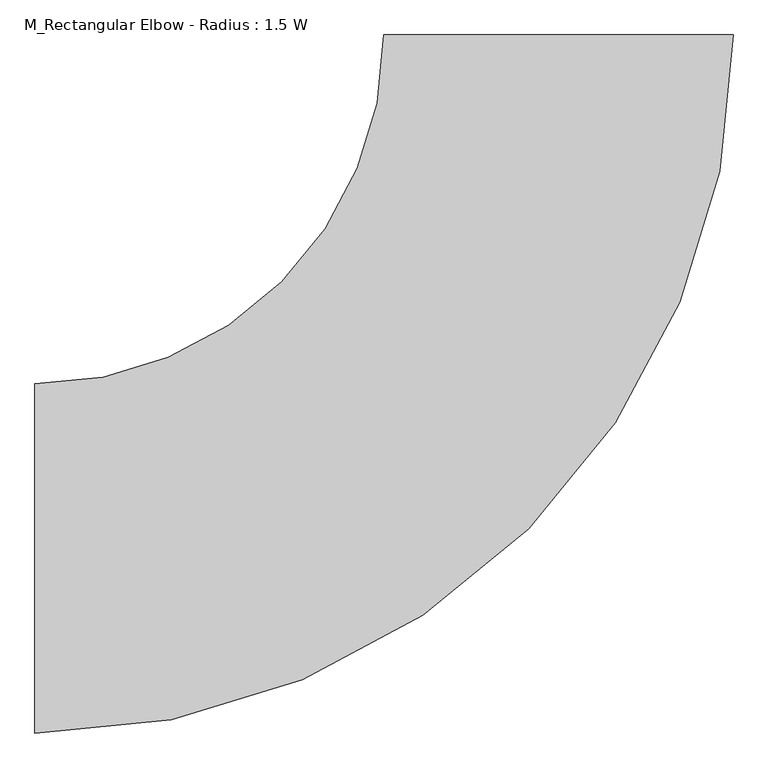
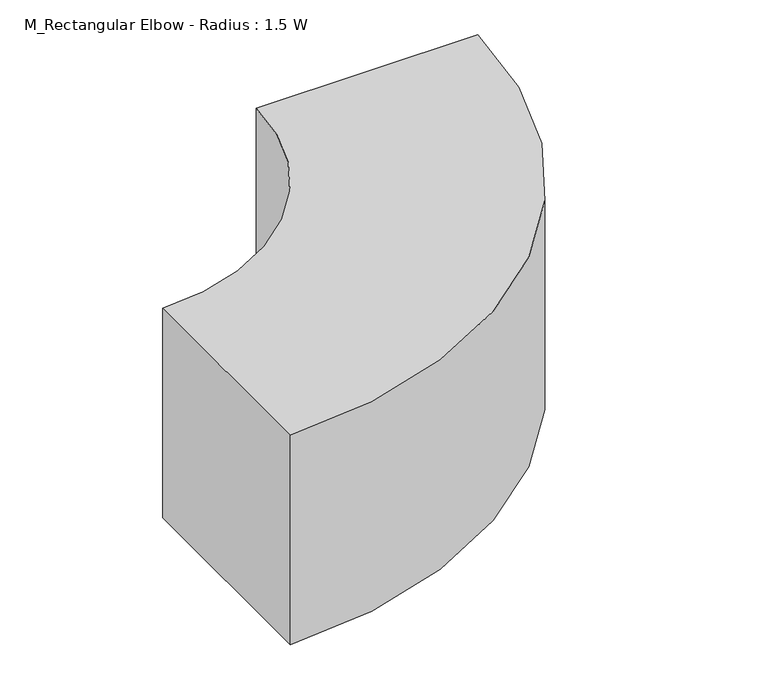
"""IFC4 building model written with IfcOpenShell, lengths in millimetres: duct fitting geometry, M_Rectangular Elbow - Radius : 1.5 W."""

from ifc_helpers import new_model, si_unit, point, frame, frame_2d, origin, place, context, project, spatial, polyline, circle_curve, trimmed, segment, composite_curve, outline, extrude, source, transform, mapped, element, save


def m_rectangular_elbow_radius_1_5_w_19285dc5(model_context):
    return source(origin(), model_context, "Body", "SweptSolid", [
        extrude(outline(composite_curve([segment(trimmed(circle_curve(frame_2d((-750.0, 750.0)), 1000.0), [point((250.0, 750.0))], [point((-750.0, -250.0))], False, "CARTESIAN"), True, "CONTINUOUS"), segment(polyline([(-750.0, -250.0), (-750.0, 250.0)]), True, "CONTINUOUS"), segment(trimmed(circle_curve(frame_2d((-750.0, 750.0)), 500.0), [point((-750.0, 250.0))], [point((-250.0, 750.0))], True, "CARTESIAN"), True, "CONTINUOUS"), segment(polyline([(-250.0, 750.0), (250.0, 750.0)]), True, "CONTINUOUS")], self_intersect=False)), frame((0.0, 0.0, -250.0), z_axis=(0.0, 0.0, 1.0), x_axis=(1.0, 0.0, 0.0)), (0.0, 0.0, 1.0), 500.0),
        extrude(outline(composite_curve([segment(trimmed(circle_curve(frame_2d((-750.0, 750.0)), 1000.0), [point((250.0, 750.0))], [point((-750.0, -250.0))], False, "CARTESIAN"), True, "CONTINUOUS"), segment(polyline([(-750.0, -250.0), (-750.0, 250.0)]), True, "CONTINUOUS"), segment(trimmed(circle_curve(frame_2d((-750.0, 750.0)), 500.0), [point((-750.0, 250.0))], [point((-250.0, 750.0))], True, "CARTESIAN"), True, "CONTINUOUS"), segment(polyline([(-250.0, 750.0), (250.0, 750.0)]), True, "CONTINUOUS")], self_intersect=False)), frame((0.0, 0.0, -250.0), z_axis=(0.0, 0.0, 1.0), x_axis=(1.0, 0.0, 0.0)), (0.0, 0.0, 1.0), 500.0),
        extrude(outline(composite_curve([segment(trimmed(circle_curve(frame_2d((-750.0, 750.0)), 1000.0), [point((250.0, 750.0))], [point((-750.0, -250.0))], False, "CARTESIAN"), True, "CONTINUOUS"), segment(polyline([(-750.0, -250.0), (-750.0, 250.0)]), True, "CONTINUOUS"), segment(trimmed(circle_curve(frame_2d((-750.0, 750.0)), 500.0), [point((-750.0, 250.0))], [point((-250.0, 750.0))], True, "CARTESIAN"), True, "CONTINUOUS"), segment(polyline([(-250.0, 750.0), (250.0, 750.0)]), True, "CONTINUOUS")], self_intersect=False)), frame((0.0, 0.0, -250.0), z_axis=(0.0, 0.0, 1.0), x_axis=(1.0, 0.0, 0.0)), (0.0, 0.0, 1.0), 500.0),
    ])


if __name__ == "__main__":
    model = new_model("IFC4")
    model_context = context("Model", 3, world=origin())
    ifc_project = project(units=[si_unit("LENGTHUNIT", "METRE", prefix="MILLI")], contexts=[model_context])
    site = spatial("IfcSite", under=ifc_project)
    building = spatial("IfcBuilding", under=site)
    placement = place(None, origin())
    m_rectangular_elbow_radius_1_5_w_shape = m_rectangular_elbow_radius_1_5_w_19285dc5(model_context)
    element("IfcDuctFitting", 1, ObjectType="M_Rectangular Elbow - Radius : 1.5 W", at=placement, inside=building, context=model_context, shape_type="MappedRepresentation", body=[
        mapped(m_rectangular_elbow_radius_1_5_w_shape, transform((0.0, 0.0, 0.0), x_axis=(1.0, 0.0, 0.0), y_axis=(0.0, 1.0, 0.0), z_axis=(0.0, 0.0, 1.0))),
    ])
    save(model, "model.ifc")
